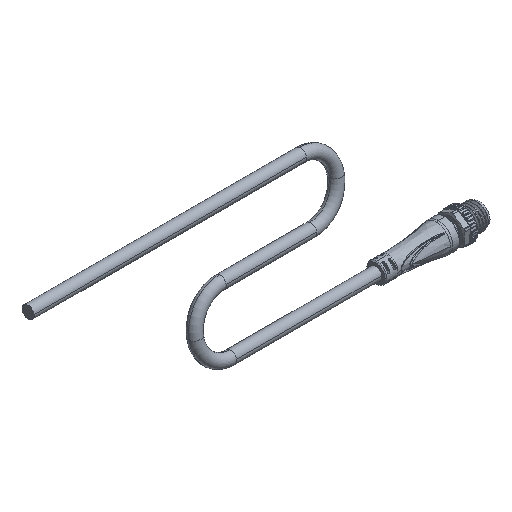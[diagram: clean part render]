
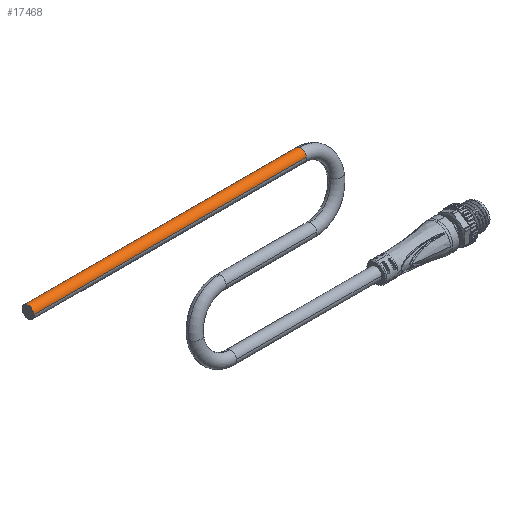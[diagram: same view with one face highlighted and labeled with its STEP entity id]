
A CAD part, isometric view. The second image highlights one B-rep face of the part: STEP entity #17468.
In plain terms, the highlighted cylindrical face has radius 2 mm (diameter 4 mm), a partial arc.
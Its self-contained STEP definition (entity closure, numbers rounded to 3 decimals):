
#576 = DIRECTION ( 'NONE',  ( 0., 0., -1. ) ) ;
#1183 = AXIS2_PLACEMENT_3D ( 'NONE', #21485, #26892, #6863 ) ;
#2613 = VERTEX_POINT ( 'NONE', #28102 ) ;
#3106 = CARTESIAN_POINT ( 'NONE',  ( 2., 40., 0. ) ) ;
#3249 = DIRECTION ( 'NONE',  ( -1., 0., 0. ) ) ;
#3379 = VECTOR ( 'NONE', #576, 1000. ) ;
#3585 = CARTESIAN_POINT ( 'NONE',  ( 0., 40., 0. ) ) ;
#5161 = VERTEX_POINT ( 'NONE', #9650 ) ;
#5574 = AXIS2_PLACEMENT_3D ( 'NONE', #26728, #8709, #13934 ) ;
#5598 = EDGE_CURVE ( 'NONE', #18692, #20815, #26199, .T. ) ;
#6863 = DIRECTION ( 'NONE',  ( -1., 0., 0. ) ) ;
#6868 = EDGE_CURVE ( 'NONE', #2613, #22615, #12640, .T. ) ;
#8709 = DIRECTION ( 'NONE',  ( 0., 0., -1. ) ) ;
#9571 = CARTESIAN_POINT ( 'NONE',  ( 2., 40., -90. ) ) ;
#9650 = CARTESIAN_POINT ( 'NONE',  ( 0., 42., 0. ) ) ;
#9888 = DIRECTION ( 'NONE',  ( 0., 0., -1. ) ) ;
#10321 = CARTESIAN_POINT ( 'NONE',  ( -2., 40., -90. ) ) ;
#11700 = AXIS2_PLACEMENT_3D ( 'NONE', #17449, #9888, #27563 ) ;
#12640 = LINE ( 'NONE', #27456, #14222 ) ;
#13934 = DIRECTION ( 'NONE',  ( -1., 0., 0. ) ) ;
#14222 = VECTOR ( 'NONE', #33158, 1000. ) ;
#14617 = ORIENTED_EDGE ( 'NONE', *, *, #6868, .F. ) ;
#16294 = ORIENTED_EDGE ( 'NONE', *, *, #30853, .F. ) ;
#17449 = CARTESIAN_POINT ( 'NONE',  ( 0., 40., -90. ) ) ;
#17468 = ADVANCED_FACE ( 'NONE', ( #26342 ), #26508, .T. ) ;
#17587 = CIRCLE ( 'NONE', #11700, 2. ) ;
#17689 = ORIENTED_EDGE ( 'NONE', *, *, #26312, .T. ) ;
#18692 = VERTEX_POINT ( 'NONE', #23385 ) ;
#20007 = CIRCLE ( 'NONE', #1183, 2. ) ;
#20815 = VERTEX_POINT ( 'NONE', #9571 ) ;
#21326 = ORIENTED_EDGE ( 'NONE', *, *, #26295, .T. ) ;
#21485 = CARTESIAN_POINT ( 'NONE',  ( 0., 40., 0. ) ) ;
#22045 = AXIS2_PLACEMENT_3D ( 'NONE', #3585, #31723, #3249 ) ;
#22615 = VERTEX_POINT ( 'NONE', #10321 ) ;
#23385 = CARTESIAN_POINT ( 'NONE',  ( 2., 40., 0. ) ) ;
#24063 = ORIENTED_EDGE ( 'NONE', *, *, #5598, .T. ) ;
#24322 = CIRCLE ( 'NONE', #5574, 2. ) ;
#24547 = EDGE_LOOP ( 'NONE', ( #17689, #21326, #24063, #16294, #14617 ) ) ;
#26199 = LINE ( 'NONE', #3106, #3379 ) ;
#26295 = EDGE_CURVE ( 'NONE', #5161, #18692, #20007, .T. ) ;
#26312 = EDGE_CURVE ( 'NONE', #2613, #5161, #24322, .T. ) ;
#26342 = FACE_OUTER_BOUND ( 'NONE', #24547, .T. ) ;
#26508 = CYLINDRICAL_SURFACE ( 'NONE', #22045, 2. ) ;
#26728 = CARTESIAN_POINT ( 'NONE',  ( 0., 40., 0. ) ) ;
#26892 = DIRECTION ( 'NONE',  ( 0., 0., -1. ) ) ;
#27456 = CARTESIAN_POINT ( 'NONE',  ( -2., 40., 0. ) ) ;
#27563 = DIRECTION ( 'NONE',  ( -1., 0., 0. ) ) ;
#28102 = CARTESIAN_POINT ( 'NONE',  ( -2., 40., 0. ) ) ;
#30853 = EDGE_CURVE ( 'NONE', #22615, #20815, #17587, .T. ) ;
#31723 = DIRECTION ( 'NONE',  ( 0., 0., -1. ) ) ;
#33158 = DIRECTION ( 'NONE',  ( 0., 0., -1. ) ) ;
